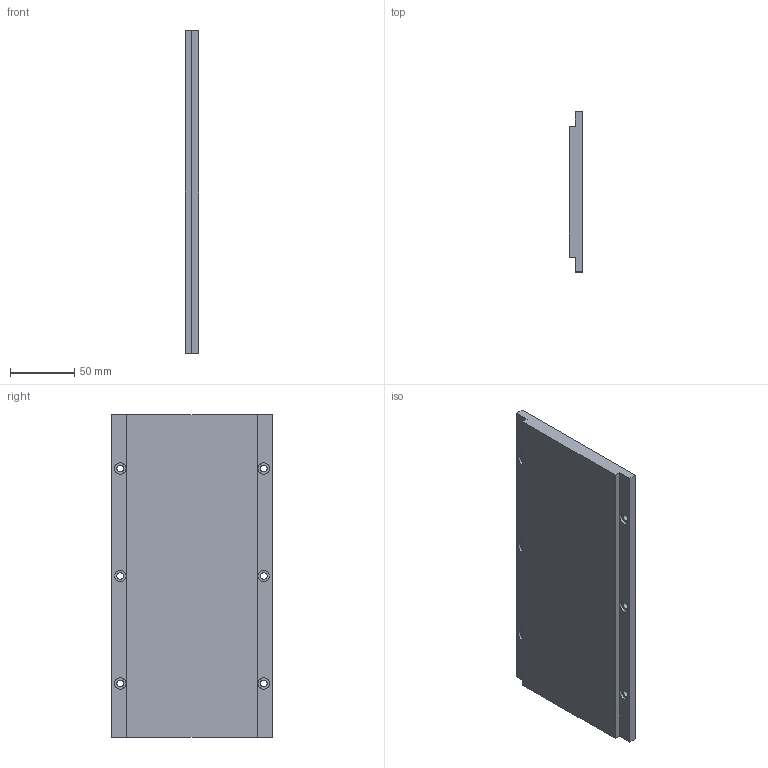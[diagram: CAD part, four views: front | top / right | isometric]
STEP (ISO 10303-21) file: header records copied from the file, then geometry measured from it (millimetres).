
FILE_DESCRIPTION (( 'STEP AP214' ), '1' );
FILE_NAME ('WKM100-252.STEP', '2025-09-05T11:59:56', ( '' ), ( '' ), 'SwSTEP 2.0', 'SolidWorks 2016', '' );
FILE_SCHEMA (( 'AUTOMOTIVE_DESIGN' ));
Length unit declared in the file: millimetre
Products named in the file (1): WKM100-252
Bounding box: 10.8 x 125 x 252 mm (x, y, z)
Volume: 311328.2 mm3; surface area: 71398.5 mm2
Topology: 1 solids, 1 shells, 40 faces, 96 edges, 64 vertices
Faces by surface type: cylinder 24, plane 16
Entity records: 1246 total; most frequent: DIRECTION 226, CARTESIAN_POINT 201, ORIENTED_EDGE 192, EDGE_CURVE 96, AXIS2_PLACEMENT_3D 89, VERTEX_POINT 64, EDGE_LOOP 58, CIRCLE 48
